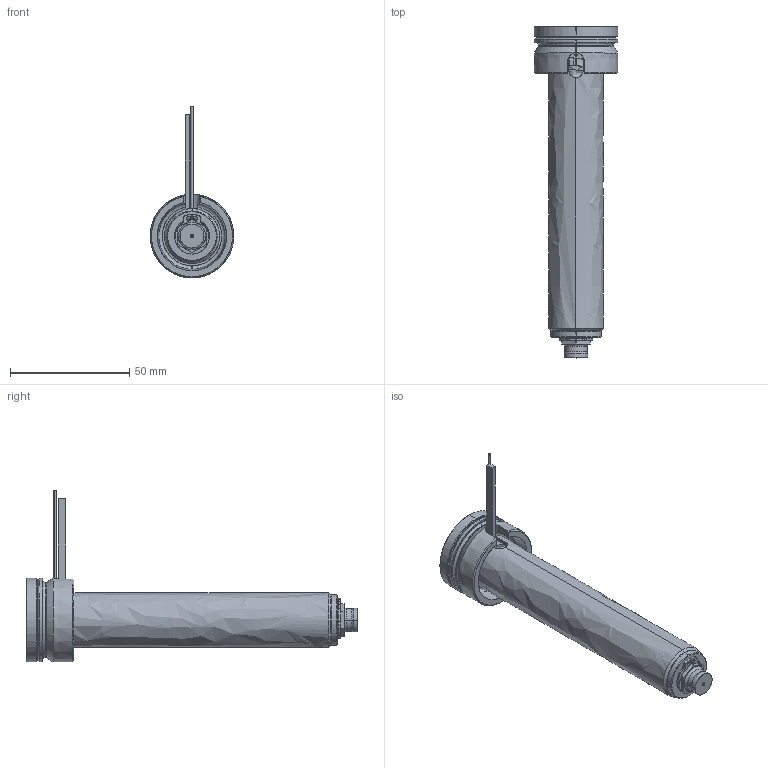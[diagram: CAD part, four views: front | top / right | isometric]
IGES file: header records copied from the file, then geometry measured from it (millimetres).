
Start section: SolidWorks IGES file using analytic representation for surfaces
Global section: file name: C:\Documents and Settings\ws-20\Desktop\TEM\UGEP3153-S-A-1 [Øf-0.50 P-0 ØC-7.0].IGS; native system: SolidWorks 2012; preprocessor: SolidWorks 2012; author: ws-20; date: 120404.082358; units: millimetre
Bounding box: 35 x 139 x 71.9 mm (x, y, z)
Surface area: 28235 mm2 (no closed solid volume)
Topology: 0 solids, 0 shells, 127 faces, 2004 edges, 2004 vertices
Faces by surface type: revolution 77, bspline 50
